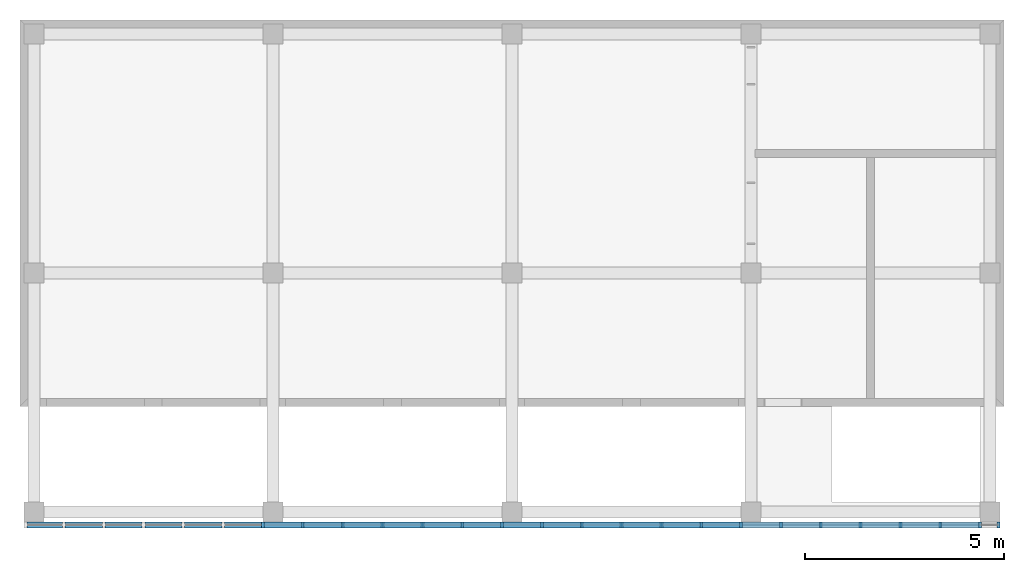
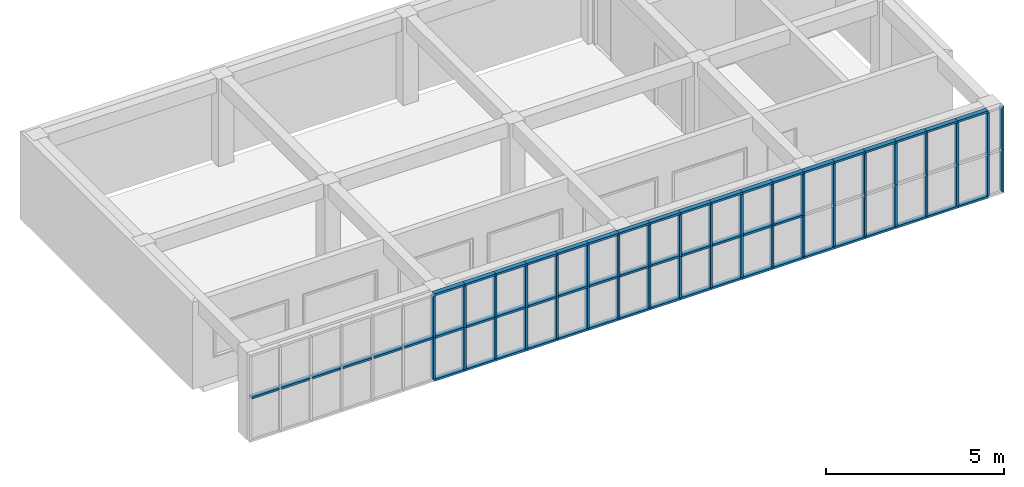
# One storey, part 3 of 4: 94 discrete accessories, 1 element without a shape of its own.
"""IFC2X3 building model written with IfcOpenShell, lengths in millimetres."""

from ifc_helpers import new_model, entity, si_unit, converted_unit, direction, frame, origin_with_axes, place, context, project, spatial, polyline, outline, extrude, source, transform, mapped, type_object, element, aggregate, save


model = new_model("IFC2X3")

# Units and contexts
model_context = context("Model", 3, precision=1e-05, world=origin_with_axes(), true_north=direction((6.123234e-17, 1.0)))
plan_context = context("Plan", 3, precision=1e-05, world=origin_with_axes(), true_north=direction((6.123234e-17, 1.0)))
ifc_project = project(units=[si_unit("LENGTHUNIT", "METRE", prefix="MILLI"), si_unit("AREAUNIT", "SQUARE_METRE"), si_unit("VOLUMEUNIT", "CUBIC_METRE"), converted_unit("PLANEANGLEUNIT", "DEGREE", entity("IfcPlaneAngleMeasure", 0.017453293), si_unit("PLANEANGLEUNIT", "RADIAN"), dimensions=[0, 0, 0, 0, 0, 0, 0]), si_unit("SOLIDANGLEUNIT", "STERADIAN"), si_unit("MASSUNIT", "GRAM"), si_unit("TIMEUNIT", "SECOND"), si_unit("THERMODYNAMICTEMPERATUREUNIT", "DEGREE_CELSIUS"), si_unit("LUMINOUSINTENSITYUNIT", "LUMEN")], contexts=[model_context, plan_context])

# Site, building, storey
site_placement = place(None, origin_with_axes())
site = spatial("IfcSite", under=ifc_project, at=site_placement, Name="\x8aO\x8d\\", CompositionType="ELEMENT")
building_placement = place(site_placement, origin_with_axes())
building = spatial("IfcBuilding", under=site, at=building_placement, Name="20101105_ArchCADMagic_002", CompositionType="ELEMENT")
storey_placement = place(building_placement, frame((0.0, 0.0, 3450.0), z_axis=(0.0, 0.0, 1.0), x_axis=(1.0, 0.0, 0.0)))
storey = spatial("IfcBuildingStorey", under=building, at=storey_placement, Name="1. 2\x8aK", CompositionType="ELEMENT", Elevation=3450.0)

# Curtain wall, discrete accessories
curtain_wall_placement = place(storey_placement, frame((-250.0, -325.0, 0.0), z_axis=(0.0, 0.0, 1.0), x_axis=(1.0, 0.0, 0.0)))
curtain_wall = element("IfcCurtainWall", 1, at=curtain_wall_placement, inside=storey, Name="CW5")
discrete_accessory_type = type_object("IfcDiscreteAccessoryType", Name="AC12_CW_Frame")
shared_shape_1 = source(origin_with_axes(), model_context, "Body", "SweptSolid", [
    extrude(outline(polyline([(0.0, 0.0), (150.0, 0.0), (150.0, -1000.0), (5.5511151e-14, -1000.0), (0.0, 0.0)])), origin_with_axes(), (0.0, 0.0, 1.0), 70.0),
])
discrete_accessory_1_placement = place(storey_placement, frame((5750.0, -250.0, 70.0), z_axis=(0.0, 0.0, -1.0), x_axis=(0.0, -1.0, 0.0)))
discrete_accessory_1 = element("IfcDiscreteAccessory", 2, at=discrete_accessory_1_placement, type_object=discrete_accessory_type, Name="\x8b«\x8aE-729", context=model_context, shape_type="MappedRepresentation", body=[
    mapped(shared_shape_1, transform((0.0, 0.0, 0.0), scale=1.0)),
])
discrete_accessory_2_placement = place(storey_placement, frame((6750.0, -250.0, 70.0), z_axis=(0.0, 0.0, -1.0), x_axis=(0.0, -1.0, 0.0)))
discrete_accessory_2 = element("IfcDiscreteAccessory", 3, at=discrete_accessory_2_placement, type_object=discrete_accessory_type, Name="\x8b«\x8aE-730", context=model_context, shape_type="MappedRepresentation", body=[
    mapped(shared_shape_1, transform((0.0, 0.0, 0.0), scale=1.0)),
])
discrete_accessory_3_placement = place(storey_placement, frame((7750.0, -250.0, 70.0), z_axis=(0.0, 0.0, -1.0), x_axis=(0.0, -1.0, 0.0)))
discrete_accessory_3 = element("IfcDiscreteAccessory", 4, at=discrete_accessory_3_placement, type_object=discrete_accessory_type, Name="\x8b«\x8aE-731", context=model_context, shape_type="MappedRepresentation", body=[
    mapped(shared_shape_1, transform((0.0, 0.0, 0.0), scale=1.0)),
])
discrete_accessory_4_placement = place(storey_placement, frame((8750.0, -250.0, 70.0), z_axis=(0.0, 0.0, -1.0), x_axis=(0.0, -1.0, 0.0)))
discrete_accessory_4 = element("IfcDiscreteAccessory", 5, at=discrete_accessory_4_placement, type_object=discrete_accessory_type, Name="\x8b«\x8aE-732", context=model_context, shape_type="MappedRepresentation", body=[
    mapped(shared_shape_1, transform((0.0, 0.0, 0.0), scale=1.0)),
])
discrete_accessory_5_placement = place(storey_placement, frame((9750.0, -250.0, 70.0), z_axis=(0.0, 0.0, -1.0), x_axis=(0.0, -1.0, 0.0)))
discrete_accessory_5 = element("IfcDiscreteAccessory", 6, at=discrete_accessory_5_placement, type_object=discrete_accessory_type, Name="\x8b«\x8aE-733", context=model_context, shape_type="MappedRepresentation", body=[
    mapped(shared_shape_1, transform((0.0, 0.0, 0.0), scale=1.0)),
])
discrete_accessory_6_placement = place(storey_placement, frame((10750.0, -250.0, 70.0), z_axis=(0.0, 0.0, -1.0), x_axis=(0.0, -1.0, 0.0)))
discrete_accessory_6 = element("IfcDiscreteAccessory", 7, at=discrete_accessory_6_placement, type_object=discrete_accessory_type, Name="\x8b«\x8aE-734", context=model_context, shape_type="MappedRepresentation", body=[
    mapped(shared_shape_1, transform((0.0, 0.0, 0.0), scale=1.0)),
])
discrete_accessory_7_placement = place(storey_placement, frame((11750.0, -250.0, 70.0), z_axis=(0.0, 0.0, -1.0), x_axis=(0.0, -1.0, 0.0)))
discrete_accessory_7 = element("IfcDiscreteAccessory", 8, at=discrete_accessory_7_placement, type_object=discrete_accessory_type, Name="\x8b«\x8aE-735", context=model_context, shape_type="MappedRepresentation", body=[
    mapped(shared_shape_1, transform((0.0, 0.0, 0.0), scale=1.0)),
])
discrete_accessory_8_placement = place(storey_placement, frame((12750.0, -250.0, 70.0), z_axis=(0.0, 0.0, -1.0), x_axis=(0.0, -1.0, 0.0)))
discrete_accessory_8 = element("IfcDiscreteAccessory", 9, at=discrete_accessory_8_placement, type_object=discrete_accessory_type, Name="\x8b«\x8aE-736", context=model_context, shape_type="MappedRepresentation", body=[
    mapped(shared_shape_1, transform((0.0, 0.0, 0.0), scale=1.0)),
])
discrete_accessory_9_placement = place(storey_placement, frame((13750.0, -250.0, 70.0), z_axis=(0.0, 0.0, -1.0), x_axis=(0.0, -1.0, 0.0)))
discrete_accessory_9 = element("IfcDiscreteAccessory", 10, at=discrete_accessory_9_placement, type_object=discrete_accessory_type, Name="\x8b«\x8aE-737", context=model_context, shape_type="MappedRepresentation", body=[
    mapped(shared_shape_1, transform((0.0, 0.0, 0.0), scale=1.0)),
])
discrete_accessory_10_placement = place(storey_placement, frame((14750.0, -250.0, 70.0), z_axis=(0.0, 0.0, -1.0), x_axis=(0.0, -1.0, 0.0)))
discrete_accessory_10 = element("IfcDiscreteAccessory", 11, at=discrete_accessory_10_placement, type_object=discrete_accessory_type, Name="\x8b«\x8aE-738", context=model_context, shape_type="MappedRepresentation", body=[
    mapped(shared_shape_1, transform((0.0, 0.0, 0.0), scale=1.0)),
])
discrete_accessory_11_placement = place(storey_placement, frame((15750.0, -250.0, 70.0), z_axis=(0.0, 0.0, -1.0), x_axis=(0.0, -1.0, 0.0)))
discrete_accessory_11 = element("IfcDiscreteAccessory", 12, at=discrete_accessory_11_placement, type_object=discrete_accessory_type, Name="\x8b«\x8aE-739", context=model_context, shape_type="MappedRepresentation", body=[
    mapped(shared_shape_1, transform((0.0, 0.0, 0.0), scale=1.0)),
])
discrete_accessory_12_placement = place(storey_placement, frame((16750.0, -250.0, 70.0), z_axis=(0.0, 0.0, -1.0), x_axis=(0.0, -1.0, 0.0)))
discrete_accessory_12 = element("IfcDiscreteAccessory", 13, at=discrete_accessory_12_placement, type_object=discrete_accessory_type, Name="\x8b«\x8aE-740", context=model_context, shape_type="MappedRepresentation", body=[
    mapped(shared_shape_1, transform((0.0, 0.0, 0.0), scale=1.0)),
])
discrete_accessory_13_placement = place(storey_placement, frame((17750.0, -250.0, 70.0), z_axis=(0.0, 0.0, -1.0), x_axis=(0.0, -1.0, 0.0)))
discrete_accessory_13 = element("IfcDiscreteAccessory", 14, at=discrete_accessory_13_placement, type_object=discrete_accessory_type, Name="\x8b«\x8aE-741", context=model_context, shape_type="MappedRepresentation", body=[
    mapped(shared_shape_1, transform((0.0, 0.0, 0.0), scale=1.0)),
])
discrete_accessory_14_placement = place(storey_placement, frame((18750.0, -250.0, 70.0), z_axis=(0.0, 0.0, -1.0), x_axis=(0.0, -1.0, 0.0)))
discrete_accessory_14 = element("IfcDiscreteAccessory", 15, at=discrete_accessory_14_placement, type_object=discrete_accessory_type, Name="\x8b«\x8aE-742", context=model_context, shape_type="MappedRepresentation", body=[
    mapped(shared_shape_1, transform((0.0, 0.0, 0.0), scale=1.0)),
])
discrete_accessory_15_placement = place(storey_placement, frame((19750.0, -250.0, 70.0), z_axis=(0.0, 0.0, -1.0), x_axis=(0.0, -1.0, 0.0)))
discrete_accessory_15 = element("IfcDiscreteAccessory", 16, at=discrete_accessory_15_placement, type_object=discrete_accessory_type, Name="\x8b«\x8aE-743", context=model_context, shape_type="MappedRepresentation", body=[
    mapped(shared_shape_1, transform((0.0, 0.0, 0.0), scale=1.0)),
])
discrete_accessory_16_placement = place(storey_placement, frame((20750.0, -250.0, 70.0), z_axis=(0.0, 0.0, -1.0), x_axis=(0.0, -1.0, 0.0)))
discrete_accessory_16 = element("IfcDiscreteAccessory", 17, at=discrete_accessory_16_placement, type_object=discrete_accessory_type, Name="\x8b«\x8aE-744", context=model_context, shape_type="MappedRepresentation", body=[
    mapped(shared_shape_1, transform((0.0, 0.0, 0.0), scale=1.0)),
])
discrete_accessory_17_placement = place(storey_placement, frame((21750.0, -250.0, 70.0), z_axis=(0.0, 0.0, -1.0), x_axis=(0.0, -1.0, 0.0)))
discrete_accessory_17 = element("IfcDiscreteAccessory", 18, at=discrete_accessory_17_placement, type_object=discrete_accessory_type, Name="\x8b«\x8aE-745", context=model_context, shape_type="MappedRepresentation", body=[
    mapped(shared_shape_1, transform((0.0, 0.0, 0.0), scale=1.0)),
])
discrete_accessory_18_placement = place(storey_placement, frame((22750.0, -250.0, 70.0), z_axis=(0.0, 0.0, -1.0), x_axis=(0.0, -1.0, 0.0)))
discrete_accessory_18 = element("IfcDiscreteAccessory", 19, at=discrete_accessory_18_placement, type_object=discrete_accessory_type, Name="\x8b«\x8aE-746", context=model_context, shape_type="MappedRepresentation", body=[
    mapped(shared_shape_1, transform((0.0, 0.0, 0.0), scale=1.0)),
])
discrete_accessory_19_placement = place(storey_placement, frame((5750.0, -250.0, 3000.0), z_axis=(0.0, 0.0, -1.0), x_axis=(0.0, -1.0, 0.0)))
discrete_accessory_19 = element("IfcDiscreteAccessory", 20, at=discrete_accessory_19_placement, type_object=discrete_accessory_type, Name="\x8b«\x8aE-819", context=model_context, shape_type="MappedRepresentation", body=[
    mapped(shared_shape_1, transform((0.0, 0.0, 0.0), scale=1.0)),
])
discrete_accessory_20_placement = place(storey_placement, frame((6750.0, -250.0, 3000.0), z_axis=(0.0, 0.0, -1.0), x_axis=(0.0, -1.0, 0.0)))
discrete_accessory_20 = element("IfcDiscreteAccessory", 21, at=discrete_accessory_20_placement, type_object=discrete_accessory_type, Name="\x8b«\x8aE-819", context=model_context, shape_type="MappedRepresentation", body=[
    mapped(shared_shape_1, transform((0.0, 0.0, 0.0), scale=1.0)),
])
discrete_accessory_21_placement = place(storey_placement, frame((7750.0, -250.0, 3000.0), z_axis=(0.0, 0.0, -1.0), x_axis=(0.0, -1.0, 0.0)))
discrete_accessory_21 = element("IfcDiscreteAccessory", 22, at=discrete_accessory_21_placement, type_object=discrete_accessory_type, Name="\x8b«\x8aE-819", context=model_context, shape_type="MappedRepresentation", body=[
    mapped(shared_shape_1, transform((0.0, 0.0, 0.0), scale=1.0)),
])
discrete_accessory_22_placement = place(storey_placement, frame((8750.0, -250.0, 3000.0), z_axis=(0.0, 0.0, -1.0), x_axis=(0.0, -1.0, 0.0)))
discrete_accessory_22 = element("IfcDiscreteAccessory", 23, at=discrete_accessory_22_placement, type_object=discrete_accessory_type, Name="\x8b«\x8aE-819", context=model_context, shape_type="MappedRepresentation", body=[
    mapped(shared_shape_1, transform((0.0, 0.0, 0.0), scale=1.0)),
])
discrete_accessory_23_placement = place(storey_placement, frame((9750.0, -250.0, 3000.0), z_axis=(0.0, 0.0, -1.0), x_axis=(0.0, -1.0, 0.0)))
discrete_accessory_23 = element("IfcDiscreteAccessory", 24, at=discrete_accessory_23_placement, type_object=discrete_accessory_type, Name="\x8b«\x8aE-819", context=model_context, shape_type="MappedRepresentation", body=[
    mapped(shared_shape_1, transform((0.0, 0.0, 0.0), scale=1.0)),
])
discrete_accessory_24_placement = place(storey_placement, frame((10750.0, -250.0, 3000.0), z_axis=(0.0, 0.0, -1.0), x_axis=(0.0, -1.0, 0.0)))
discrete_accessory_24 = element("IfcDiscreteAccessory", 25, at=discrete_accessory_24_placement, type_object=discrete_accessory_type, Name="\x8b«\x8aE-819", context=model_context, shape_type="MappedRepresentation", body=[
    mapped(shared_shape_1, transform((0.0, 0.0, 0.0), scale=1.0)),
])
discrete_accessory_25_placement = place(storey_placement, frame((11750.0, -250.0, 3000.0), z_axis=(0.0, 0.0, -1.0), x_axis=(0.0, -1.0, 0.0)))
discrete_accessory_25 = element("IfcDiscreteAccessory", 26, at=discrete_accessory_25_placement, type_object=discrete_accessory_type, Name="\x8b«\x8aE-819", context=model_context, shape_type="MappedRepresentation", body=[
    mapped(shared_shape_1, transform((0.0, 0.0, 0.0), scale=1.0)),
])
discrete_accessory_26_placement = place(storey_placement, frame((12750.0, -250.0, 3000.0), z_axis=(0.0, 0.0, -1.0), x_axis=(0.0, -1.0, 0.0)))
discrete_accessory_26 = element("IfcDiscreteAccessory", 27, at=discrete_accessory_26_placement, type_object=discrete_accessory_type, Name="\x8b«\x8aE-819", context=model_context, shape_type="MappedRepresentation", body=[
    mapped(shared_shape_1, transform((0.0, 0.0, 0.0), scale=1.0)),
])
discrete_accessory_27_placement = place(storey_placement, frame((13750.0, -250.0, 3000.0), z_axis=(0.0, 0.0, -1.0), x_axis=(0.0, -1.0, 0.0)))
discrete_accessory_27 = element("IfcDiscreteAccessory", 28, at=discrete_accessory_27_placement, type_object=discrete_accessory_type, Name="\x8b«\x8aE-819", context=model_context, shape_type="MappedRepresentation", body=[
    mapped(shared_shape_1, transform((0.0, 0.0, 0.0), scale=1.0)),
])
discrete_accessory_28_placement = place(storey_placement, frame((14750.0, -250.0, 3000.0), z_axis=(0.0, 0.0, -1.0), x_axis=(0.0, -1.0, 0.0)))
discrete_accessory_28 = element("IfcDiscreteAccessory", 29, at=discrete_accessory_28_placement, type_object=discrete_accessory_type, Name="\x8b«\x8aE-819", context=model_context, shape_type="MappedRepresentation", body=[
    mapped(shared_shape_1, transform((0.0, 0.0, 0.0), scale=1.0)),
])
discrete_accessory_29_placement = place(storey_placement, frame((15750.0, -250.0, 3000.0), z_axis=(0.0, 0.0, -1.0), x_axis=(0.0, -1.0, 0.0)))
discrete_accessory_29 = element("IfcDiscreteAccessory", 30, at=discrete_accessory_29_placement, type_object=discrete_accessory_type, Name="\x8b«\x8aE-819", context=model_context, shape_type="MappedRepresentation", body=[
    mapped(shared_shape_1, transform((0.0, 0.0, 0.0), scale=1.0)),
])
discrete_accessory_30_placement = place(storey_placement, frame((16750.0, -250.0, 3000.0), z_axis=(0.0, 0.0, -1.0), x_axis=(0.0, -1.0, 0.0)))
discrete_accessory_30 = element("IfcDiscreteAccessory", 31, at=discrete_accessory_30_placement, type_object=discrete_accessory_type, Name="\x8b«\x8aE-819", context=model_context, shape_type="MappedRepresentation", body=[
    mapped(shared_shape_1, transform((0.0, 0.0, 0.0), scale=1.0)),
])
discrete_accessory_31_placement = place(storey_placement, frame((17750.0, -250.0, 3000.0), z_axis=(0.0, 0.0, -1.0), x_axis=(0.0, -1.0, 0.0)))
discrete_accessory_31 = element("IfcDiscreteAccessory", 32, at=discrete_accessory_31_placement, type_object=discrete_accessory_type, Name="\x8b«\x8aE-819", context=model_context, shape_type="MappedRepresentation", body=[
    mapped(shared_shape_1, transform((0.0, 0.0, 0.0), scale=1.0)),
])
discrete_accessory_32_placement = place(storey_placement, frame((18750.0, -250.0, 3000.0), z_axis=(0.0, 0.0, -1.0), x_axis=(0.0, -1.0, 0.0)))
discrete_accessory_32 = element("IfcDiscreteAccessory", 33, at=discrete_accessory_32_placement, type_object=discrete_accessory_type, Name="\x8b«\x8aE-819", context=model_context, shape_type="MappedRepresentation", body=[
    mapped(shared_shape_1, transform((0.0, 0.0, 0.0), scale=1.0)),
])
discrete_accessory_33_placement = place(storey_placement, frame((19750.0, -250.0, 3000.0), z_axis=(0.0, 0.0, -1.0), x_axis=(0.0, -1.0, 0.0)))
discrete_accessory_33 = element("IfcDiscreteAccessory", 34, at=discrete_accessory_33_placement, type_object=discrete_accessory_type, Name="\x8b«\x8aE-819", context=model_context, shape_type="MappedRepresentation", body=[
    mapped(shared_shape_1, transform((0.0, 0.0, 0.0), scale=1.0)),
])
discrete_accessory_34_placement = place(storey_placement, frame((20750.0, -250.0, 3000.0), z_axis=(0.0, 0.0, -1.0), x_axis=(0.0, -1.0, 0.0)))
discrete_accessory_34 = element("IfcDiscreteAccessory", 35, at=discrete_accessory_34_placement, type_object=discrete_accessory_type, Name="\x8b«\x8aE-819", context=model_context, shape_type="MappedRepresentation", body=[
    mapped(shared_shape_1, transform((0.0, 0.0, 0.0), scale=1.0)),
])
discrete_accessory_35_placement = place(storey_placement, frame((21750.0, -250.0, 3000.0), z_axis=(0.0, 0.0, -1.0), x_axis=(0.0, -1.0, 0.0)))
discrete_accessory_35 = element("IfcDiscreteAccessory", 36, at=discrete_accessory_35_placement, type_object=discrete_accessory_type, Name="\x8b«\x8aE-819", context=model_context, shape_type="MappedRepresentation", body=[
    mapped(shared_shape_1, transform((0.0, 0.0, 0.0), scale=1.0)),
])
discrete_accessory_36_placement = place(storey_placement, frame((22750.0, -250.0, 3000.0), z_axis=(0.0, 0.0, -1.0), x_axis=(0.0, -1.0, 0.0)))
discrete_accessory_36 = element("IfcDiscreteAccessory", 37, at=discrete_accessory_36_placement, type_object=discrete_accessory_type, Name="\x8b«\x8aE-819", context=model_context, shape_type="MappedRepresentation", body=[
    mapped(shared_shape_1, transform((0.0, 0.0, 0.0), scale=1.0)),
])
shared_shape_2 = source(origin_with_axes(), model_context, "Body", "SweptSolid", [
    extrude(outline(polyline([(0.0, 0.0), (150.0, 0.0), (150.0, -1430.0), (0.0, -1430.0), (0.0, 0.0)])), origin_with_axes(), (0.0, 0.0, 1.0), 70.0),
])
discrete_accessory_37_placement = place(storey_placement, frame((5715.0, -250.0, 70.0), z_axis=(1.0, 0.0, 0.0), x_axis=(0.0, -1.0, 0.0)))
discrete_accessory_37 = element("IfcDiscreteAccessory", 38, at=discrete_accessory_37_placement, type_object=discrete_accessory_type, Name="\x83}\x83\x8a\x83I\x83\x93-644", context=model_context, shape_type="MappedRepresentation", body=[
    mapped(shared_shape_2, transform((0.0, 0.0, 0.0), scale=1.0)),
])
discrete_accessory_38_placement = place(storey_placement, frame((6715.0, -250.0, 70.0), z_axis=(1.0, 0.0, 0.0), x_axis=(0.0, -1.0, 0.0)))
discrete_accessory_38 = element("IfcDiscreteAccessory", 39, at=discrete_accessory_38_placement, type_object=discrete_accessory_type, Name="\x83}\x83\x8a\x83I\x83\x93-645", context=model_context, shape_type="MappedRepresentation", body=[
    mapped(shared_shape_2, transform((0.0, 0.0, 0.0), scale=1.0)),
])
discrete_accessory_39_placement = place(storey_placement, frame((7715.0, -250.0, 70.0), z_axis=(1.0, 0.0, 0.0), x_axis=(0.0, -1.0, 0.0)))
discrete_accessory_39 = element("IfcDiscreteAccessory", 40, at=discrete_accessory_39_placement, type_object=discrete_accessory_type, Name="\x83}\x83\x8a\x83I\x83\x93-646", context=model_context, shape_type="MappedRepresentation", body=[
    mapped(shared_shape_2, transform((0.0, 0.0, 0.0), scale=1.0)),
])
discrete_accessory_40_placement = place(storey_placement, frame((8715.0, -250.0, 70.0), z_axis=(1.0, 0.0, 0.0), x_axis=(0.0, -1.0, 0.0)))
discrete_accessory_40 = element("IfcDiscreteAccessory", 41, at=discrete_accessory_40_placement, type_object=discrete_accessory_type, Name="\x83}\x83\x8a\x83I\x83\x93-647", context=model_context, shape_type="MappedRepresentation", body=[
    mapped(shared_shape_2, transform((0.0, 0.0, 0.0), scale=1.0)),
])
discrete_accessory_41_placement = place(storey_placement, frame((9715.0, -250.0, 70.0), z_axis=(1.0, 0.0, 0.0), x_axis=(0.0, -1.0, 0.0)))
discrete_accessory_41 = element("IfcDiscreteAccessory", 42, at=discrete_accessory_41_placement, type_object=discrete_accessory_type, Name="\x83}\x83\x8a\x83I\x83\x93-648", context=model_context, shape_type="MappedRepresentation", body=[
    mapped(shared_shape_2, transform((0.0, 0.0, 0.0), scale=1.0)),
])
discrete_accessory_42_placement = place(storey_placement, frame((10715.0, -250.0, 70.0), z_axis=(1.0, 0.0, 0.0), x_axis=(0.0, -1.0, 0.0)))
discrete_accessory_42 = element("IfcDiscreteAccessory", 43, at=discrete_accessory_42_placement, type_object=discrete_accessory_type, Name="\x83}\x83\x8a\x83I\x83\x93-649", context=model_context, shape_type="MappedRepresentation", body=[
    mapped(shared_shape_2, transform((0.0, 0.0, 0.0), scale=1.0)),
])
discrete_accessory_43_placement = place(storey_placement, frame((11715.0, -250.0, 70.0), z_axis=(1.0, 0.0, 0.0), x_axis=(0.0, -1.0, 0.0)))
discrete_accessory_43 = element("IfcDiscreteAccessory", 44, at=discrete_accessory_43_placement, type_object=discrete_accessory_type, Name="\x83}\x83\x8a\x83I\x83\x93-650", context=model_context, shape_type="MappedRepresentation", body=[
    mapped(shared_shape_2, transform((0.0, 0.0, 0.0), scale=1.0)),
])
discrete_accessory_44_placement = place(storey_placement, frame((12715.0, -250.0, 70.0), z_axis=(1.0, 0.0, 0.0), x_axis=(0.0, -1.0, 0.0)))
discrete_accessory_44 = element("IfcDiscreteAccessory", 45, at=discrete_accessory_44_placement, type_object=discrete_accessory_type, Name="\x83}\x83\x8a\x83I\x83\x93-651", context=model_context, shape_type="MappedRepresentation", body=[
    mapped(shared_shape_2, transform((0.0, 0.0, 0.0), scale=1.0)),
])
discrete_accessory_45_placement = place(storey_placement, frame((13715.0, -250.0, 70.0), z_axis=(1.0, 0.0, 0.0), x_axis=(0.0, -1.0, 0.0)))
discrete_accessory_45 = element("IfcDiscreteAccessory", 46, at=discrete_accessory_45_placement, type_object=discrete_accessory_type, Name="\x83}\x83\x8a\x83I\x83\x93-652", context=model_context, shape_type="MappedRepresentation", body=[
    mapped(shared_shape_2, transform((0.0, 0.0, 0.0), scale=1.0)),
])
discrete_accessory_46_placement = place(storey_placement, frame((14715.0, -250.0, 70.0), z_axis=(1.0, 0.0, 0.0), x_axis=(0.0, -1.0, 0.0)))
discrete_accessory_46 = element("IfcDiscreteAccessory", 47, at=discrete_accessory_46_placement, type_object=discrete_accessory_type, Name="\x83}\x83\x8a\x83I\x83\x93-653", context=model_context, shape_type="MappedRepresentation", body=[
    mapped(shared_shape_2, transform((0.0, 0.0, 0.0), scale=1.0)),
])
discrete_accessory_47_placement = place(storey_placement, frame((15715.0, -250.0, 70.0), z_axis=(1.0, 0.0, 0.0), x_axis=(0.0, -1.0, 0.0)))
discrete_accessory_47 = element("IfcDiscreteAccessory", 48, at=discrete_accessory_47_placement, type_object=discrete_accessory_type, Name="\x83}\x83\x8a\x83I\x83\x93-654", context=model_context, shape_type="MappedRepresentation", body=[
    mapped(shared_shape_2, transform((0.0, 0.0, 0.0), scale=1.0)),
])
discrete_accessory_48_placement = place(storey_placement, frame((16715.0, -250.0, 70.0), z_axis=(1.0, 0.0, 0.0), x_axis=(0.0, -1.0, 0.0)))
discrete_accessory_48 = element("IfcDiscreteAccessory", 49, at=discrete_accessory_48_placement, type_object=discrete_accessory_type, Name="\x83}\x83\x8a\x83I\x83\x93-655", context=model_context, shape_type="MappedRepresentation", body=[
    mapped(shared_shape_2, transform((0.0, 0.0, 0.0), scale=1.0)),
])
discrete_accessory_49_placement = place(storey_placement, frame((17715.0, -250.0, 70.0), z_axis=(1.0, 0.0, 0.0), x_axis=(0.0, -1.0, 0.0)))
discrete_accessory_49 = element("IfcDiscreteAccessory", 50, at=discrete_accessory_49_placement, type_object=discrete_accessory_type, Name="\x83}\x83\x8a\x83I\x83\x93-656", context=model_context, shape_type="MappedRepresentation", body=[
    mapped(shared_shape_2, transform((0.0, 0.0, 0.0), scale=1.0)),
])
discrete_accessory_50_placement = place(storey_placement, frame((18715.0, -250.0, 70.0), z_axis=(1.0, 0.0, 0.0), x_axis=(0.0, -1.0, 0.0)))
discrete_accessory_50 = element("IfcDiscreteAccessory", 51, at=discrete_accessory_50_placement, type_object=discrete_accessory_type, Name="\x83}\x83\x8a\x83I\x83\x93-657", context=model_context, shape_type="MappedRepresentation", body=[
    mapped(shared_shape_2, transform((0.0, 0.0, 0.0), scale=1.0)),
])
discrete_accessory_51_placement = place(storey_placement, frame((19715.0, -250.0, 70.0), z_axis=(1.0, 0.0, 0.0), x_axis=(0.0, -1.0, 0.0)))
discrete_accessory_51 = element("IfcDiscreteAccessory", 52, at=discrete_accessory_51_placement, type_object=discrete_accessory_type, Name="\x83}\x83\x8a\x83I\x83\x93-658", context=model_context, shape_type="MappedRepresentation", body=[
    mapped(shared_shape_2, transform((0.0, 0.0, 0.0), scale=1.0)),
])
discrete_accessory_52_placement = place(storey_placement, frame((20715.0, -250.0, 70.0), z_axis=(1.0, 0.0, 0.0), x_axis=(0.0, -1.0, 0.0)))
discrete_accessory_52 = element("IfcDiscreteAccessory", 53, at=discrete_accessory_52_placement, type_object=discrete_accessory_type, Name="\x83}\x83\x8a\x83I\x83\x93-659", context=model_context, shape_type="MappedRepresentation", body=[
    mapped(shared_shape_2, transform((0.0, 0.0, 0.0), scale=1.0)),
])
discrete_accessory_53_placement = place(storey_placement, frame((21715.0, -250.0, 70.0), z_axis=(1.0, 0.0, 0.0), x_axis=(0.0, -1.0, 0.0)))
discrete_accessory_53 = element("IfcDiscreteAccessory", 54, at=discrete_accessory_53_placement, type_object=discrete_accessory_type, Name="\x83}\x83\x8a\x83I\x83\x93-660", context=model_context, shape_type="MappedRepresentation", body=[
    mapped(shared_shape_2, transform((0.0, 0.0, 0.0), scale=1.0)),
])
discrete_accessory_54_placement = place(storey_placement, frame((22715.0, -250.0, 70.0), z_axis=(1.0, 0.0, 0.0), x_axis=(0.0, -1.0, 0.0)))
discrete_accessory_54 = element("IfcDiscreteAccessory", 55, at=discrete_accessory_54_placement, type_object=discrete_accessory_type, Name="\x83}\x83\x8a\x83I\x83\x93-661", context=model_context, shape_type="MappedRepresentation", body=[
    mapped(shared_shape_2, transform((0.0, 0.0, 0.0), scale=1.0)),
])
discrete_accessory_55_placement = place(storey_placement, frame((23715.0, -250.0, 70.0), z_axis=(1.0, 0.0, 0.0), x_axis=(0.0, -1.0, 0.0)))
discrete_accessory_55 = element("IfcDiscreteAccessory", 56, at=discrete_accessory_55_placement, type_object=discrete_accessory_type, Name="\x83}\x83\x8a\x83I\x83\x93-662", context=model_context, shape_type="MappedRepresentation", body=[
    mapped(shared_shape_2, transform((0.0, 0.0, 0.0), scale=1.0)),
])
discrete_accessory_56_placement = place(storey_placement, frame((5715.0, -250.0, 1500.0), z_axis=(1.0, 0.0, 0.0), x_axis=(0.0, -1.0, 0.0)))
discrete_accessory_56 = element("IfcDiscreteAccessory", 57, at=discrete_accessory_56_placement, type_object=discrete_accessory_type, Name="\x83}\x83\x8a\x83I\x83\x93-668", context=model_context, shape_type="MappedRepresentation", body=[
    mapped(shared_shape_2, transform((0.0, 0.0, 0.0), scale=1.0)),
])
discrete_accessory_57_placement = place(storey_placement, frame((6715.0, -250.0, 1500.0), z_axis=(1.0, 0.0, 0.0), x_axis=(0.0, -1.0, 0.0)))
discrete_accessory_57 = element("IfcDiscreteAccessory", 58, at=discrete_accessory_57_placement, type_object=discrete_accessory_type, Name="\x83}\x83\x8a\x83I\x83\x93-669", context=model_context, shape_type="MappedRepresentation", body=[
    mapped(shared_shape_2, transform((0.0, 0.0, 0.0), scale=1.0)),
])
discrete_accessory_58_placement = place(storey_placement, frame((7715.0, -250.0, 1500.0), z_axis=(1.0, 0.0, 0.0), x_axis=(0.0, -1.0, 0.0)))
discrete_accessory_58 = element("IfcDiscreteAccessory", 59, at=discrete_accessory_58_placement, type_object=discrete_accessory_type, Name="\x83}\x83\x8a\x83I\x83\x93-670", context=model_context, shape_type="MappedRepresentation", body=[
    mapped(shared_shape_2, transform((0.0, 0.0, 0.0), scale=1.0)),
])
discrete_accessory_59_placement = place(storey_placement, frame((8715.0, -250.0, 1500.0), z_axis=(1.0, 0.0, 0.0), x_axis=(0.0, -1.0, 0.0)))
discrete_accessory_59 = element("IfcDiscreteAccessory", 60, at=discrete_accessory_59_placement, type_object=discrete_accessory_type, Name="\x83}\x83\x8a\x83I\x83\x93-671", context=model_context, shape_type="MappedRepresentation", body=[
    mapped(shared_shape_2, transform((0.0, 0.0, 0.0), scale=1.0)),
])
discrete_accessory_60_placement = place(storey_placement, frame((9715.0, -250.0, 1500.0), z_axis=(1.0, 0.0, 0.0), x_axis=(0.0, -1.0, 0.0)))
discrete_accessory_60 = element("IfcDiscreteAccessory", 61, at=discrete_accessory_60_placement, type_object=discrete_accessory_type, Name="\x83}\x83\x8a\x83I\x83\x93-672", context=model_context, shape_type="MappedRepresentation", body=[
    mapped(shared_shape_2, transform((0.0, 0.0, 0.0), scale=1.0)),
])
discrete_accessory_61_placement = place(storey_placement, frame((10715.0, -250.0, 1500.0), z_axis=(1.0, 0.0, 0.0), x_axis=(0.0, -1.0, 0.0)))
discrete_accessory_61 = element("IfcDiscreteAccessory", 62, at=discrete_accessory_61_placement, type_object=discrete_accessory_type, Name="\x83}\x83\x8a\x83I\x83\x93-673", context=model_context, shape_type="MappedRepresentation", body=[
    mapped(shared_shape_2, transform((0.0, 0.0, 0.0), scale=1.0)),
])
discrete_accessory_62_placement = place(storey_placement, frame((11715.0, -250.0, 1500.0), z_axis=(1.0, 0.0, 0.0), x_axis=(0.0, -1.0, 0.0)))
discrete_accessory_62 = element("IfcDiscreteAccessory", 63, at=discrete_accessory_62_placement, type_object=discrete_accessory_type, Name="\x83}\x83\x8a\x83I\x83\x93-674", context=model_context, shape_type="MappedRepresentation", body=[
    mapped(shared_shape_2, transform((0.0, 0.0, 0.0), scale=1.0)),
])
discrete_accessory_63_placement = place(storey_placement, frame((12715.0, -250.0, 1500.0), z_axis=(1.0, 0.0, 0.0), x_axis=(0.0, -1.0, 0.0)))
discrete_accessory_63 = element("IfcDiscreteAccessory", 64, at=discrete_accessory_63_placement, type_object=discrete_accessory_type, Name="\x83}\x83\x8a\x83I\x83\x93-675", context=model_context, shape_type="MappedRepresentation", body=[
    mapped(shared_shape_2, transform((0.0, 0.0, 0.0), scale=1.0)),
])
discrete_accessory_64_placement = place(storey_placement, frame((13715.0, -250.0, 1500.0), z_axis=(1.0, 0.0, 0.0), x_axis=(0.0, -1.0, 0.0)))
discrete_accessory_64 = element("IfcDiscreteAccessory", 65, at=discrete_accessory_64_placement, type_object=discrete_accessory_type, Name="\x83}\x83\x8a\x83I\x83\x93-676", context=model_context, shape_type="MappedRepresentation", body=[
    mapped(shared_shape_2, transform((0.0, 0.0, 0.0), scale=1.0)),
])
discrete_accessory_65_placement = place(storey_placement, frame((14715.0, -250.0, 1500.0), z_axis=(1.0, 0.0, 0.0), x_axis=(0.0, -1.0, 0.0)))
discrete_accessory_65 = element("IfcDiscreteAccessory", 66, at=discrete_accessory_65_placement, type_object=discrete_accessory_type, Name="\x83}\x83\x8a\x83I\x83\x93-677", context=model_context, shape_type="MappedRepresentation", body=[
    mapped(shared_shape_2, transform((0.0, 0.0, 0.0), scale=1.0)),
])
discrete_accessory_66_placement = place(storey_placement, frame((15715.0, -250.0, 1500.0), z_axis=(1.0, 0.0, 0.0), x_axis=(0.0, -1.0, 0.0)))
discrete_accessory_66 = element("IfcDiscreteAccessory", 67, at=discrete_accessory_66_placement, type_object=discrete_accessory_type, Name="\x83}\x83\x8a\x83I\x83\x93-678", context=model_context, shape_type="MappedRepresentation", body=[
    mapped(shared_shape_2, transform((0.0, 0.0, 0.0), scale=1.0)),
])
discrete_accessory_67_placement = place(storey_placement, frame((16715.0, -250.0, 1500.0), z_axis=(1.0, 0.0, 0.0), x_axis=(0.0, -1.0, 0.0)))
discrete_accessory_67 = element("IfcDiscreteAccessory", 68, at=discrete_accessory_67_placement, type_object=discrete_accessory_type, Name="\x83}\x83\x8a\x83I\x83\x93-679", context=model_context, shape_type="MappedRepresentation", body=[
    mapped(shared_shape_2, transform((0.0, 0.0, 0.0), scale=1.0)),
])
discrete_accessory_68_placement = place(storey_placement, frame((17715.0, -250.0, 1500.0), z_axis=(1.0, 0.0, 0.0), x_axis=(0.0, -1.0, 0.0)))
discrete_accessory_68 = element("IfcDiscreteAccessory", 69, at=discrete_accessory_68_placement, type_object=discrete_accessory_type, Name="\x83}\x83\x8a\x83I\x83\x93-680", context=model_context, shape_type="MappedRepresentation", body=[
    mapped(shared_shape_2, transform((0.0, 0.0, 0.0), scale=1.0)),
])
discrete_accessory_69_placement = place(storey_placement, frame((18715.0, -250.0, 1500.0), z_axis=(1.0, 0.0, 0.0), x_axis=(0.0, -1.0, 0.0)))
discrete_accessory_69 = element("IfcDiscreteAccessory", 70, at=discrete_accessory_69_placement, type_object=discrete_accessory_type, Name="\x83}\x83\x8a\x83I\x83\x93-681", context=model_context, shape_type="MappedRepresentation", body=[
    mapped(shared_shape_2, transform((0.0, 0.0, 0.0), scale=1.0)),
])
discrete_accessory_70_placement = place(storey_placement, frame((19715.0, -250.0, 1500.0), z_axis=(1.0, 0.0, 0.0), x_axis=(0.0, -1.0, 0.0)))
discrete_accessory_70 = element("IfcDiscreteAccessory", 71, at=discrete_accessory_70_placement, type_object=discrete_accessory_type, Name="\x83}\x83\x8a\x83I\x83\x93-682", context=model_context, shape_type="MappedRepresentation", body=[
    mapped(shared_shape_2, transform((0.0, 0.0, 0.0), scale=1.0)),
])
discrete_accessory_71_placement = place(storey_placement, frame((20715.0, -250.0, 1500.0), z_axis=(1.0, 0.0, 0.0), x_axis=(0.0, -1.0, 0.0)))
discrete_accessory_71 = element("IfcDiscreteAccessory", 72, at=discrete_accessory_71_placement, type_object=discrete_accessory_type, Name="\x83}\x83\x8a\x83I\x83\x93-683", context=model_context, shape_type="MappedRepresentation", body=[
    mapped(shared_shape_2, transform((0.0, 0.0, 0.0), scale=1.0)),
])
discrete_accessory_72_placement = place(storey_placement, frame((21715.0, -250.0, 1500.0), z_axis=(1.0, 0.0, 0.0), x_axis=(0.0, -1.0, 0.0)))
discrete_accessory_72 = element("IfcDiscreteAccessory", 73, at=discrete_accessory_72_placement, type_object=discrete_accessory_type, Name="\x83}\x83\x8a\x83I\x83\x93-684", context=model_context, shape_type="MappedRepresentation", body=[
    mapped(shared_shape_2, transform((0.0, 0.0, 0.0), scale=1.0)),
])
discrete_accessory_73_placement = place(storey_placement, frame((22715.0, -250.0, 1500.0), z_axis=(1.0, 0.0, 0.0), x_axis=(0.0, -1.0, 0.0)))
discrete_accessory_73 = element("IfcDiscreteAccessory", 74, at=discrete_accessory_73_placement, type_object=discrete_accessory_type, Name="\x83}\x83\x8a\x83I\x83\x93-685", context=model_context, shape_type="MappedRepresentation", body=[
    mapped(shared_shape_2, transform((0.0, 0.0, 0.0), scale=1.0)),
])
discrete_accessory_74_placement = place(storey_placement, frame((23715.0, -250.0, 1500.0), z_axis=(1.0, 0.0, 0.0), x_axis=(0.0, -1.0, 0.0)))
discrete_accessory_74 = element("IfcDiscreteAccessory", 75, at=discrete_accessory_74_placement, type_object=discrete_accessory_type, Name="\x83}\x83\x8a\x83I\x83\x93-686", context=model_context, shape_type="MappedRepresentation", body=[
    mapped(shared_shape_2, transform((0.0, 0.0, 0.0), scale=1.0)),
])
shared_shape_3 = source(origin_with_axes(), model_context, "Body", "SweptSolid", [
    extrude(outline(polyline([(0.0, 0.0), (150.0, 0.0), (150.0, -895.0), (5.5511151e-14, -895.0), (0.0, 0.0)])), origin_with_axes(), (0.0, 0.0, 1.0), 70.0),
])
discrete_accessory_75_placement = place(storey_placement, frame((-180.0, -250.0, 1535.0), z_axis=(0.0, 0.0, -1.0), x_axis=(0.0, -1.0, 0.0)))
discrete_accessory_75 = element("IfcDiscreteAccessory", 76, at=discrete_accessory_75_placement, type_object=discrete_accessory_type, Name="\x83g\x83\x89\x83\x93\x83U\x83\x80-439", context=model_context, shape_type="MappedRepresentation", body=[
    mapped(shared_shape_3, transform((0.0, 0.0, 0.0), scale=1.0)),
])
shared_shape_4 = source(origin_with_axes(), model_context, "Body", "SweptSolid", [
    extrude(outline(polyline([(0.0, 0.0), (150.0, 0.0), (150.0, -930.0), (5.5511151e-14, -930.0), (0.0, 0.0)])), origin_with_axes(), (0.0, 0.0, 1.0), 70.0),
])
discrete_accessory_76_placement = place(storey_placement, frame((785.0, -250.0, 1535.0), z_axis=(0.0, 0.0, -1.0), x_axis=(0.0, -1.0, 0.0)))
discrete_accessory_76 = element("IfcDiscreteAccessory", 77, at=discrete_accessory_76_placement, type_object=discrete_accessory_type, Name="\x83g\x83\x89\x83\x93\x83U\x83\x80-440", context=model_context, shape_type="MappedRepresentation", body=[
    mapped(shared_shape_4, transform((0.0, 0.0, 0.0), scale=1.0)),
])
discrete_accessory_77_placement = place(storey_placement, frame((1785.0, -250.0, 1535.0), z_axis=(0.0, 0.0, -1.0), x_axis=(0.0, -1.0, 0.0)))
discrete_accessory_77 = element("IfcDiscreteAccessory", 78, at=discrete_accessory_77_placement, type_object=discrete_accessory_type, Name="\x83g\x83\x89\x83\x93\x83U\x83\x80-441", context=model_context, shape_type="MappedRepresentation", body=[
    mapped(shared_shape_4, transform((0.0, 0.0, 0.0), scale=1.0)),
])
discrete_accessory_78_placement = place(storey_placement, frame((2785.0, -250.0, 1535.0), z_axis=(0.0, 0.0, -1.0), x_axis=(0.0, -1.0, 0.0)))
discrete_accessory_78 = element("IfcDiscreteAccessory", 79, at=discrete_accessory_78_placement, type_object=discrete_accessory_type, Name="\x83g\x83\x89\x83\x93\x83U\x83\x80-442", context=model_context, shape_type="MappedRepresentation", body=[
    mapped(shared_shape_4, transform((0.0, 0.0, 0.0), scale=1.0)),
])
discrete_accessory_79_placement = place(storey_placement, frame((3785.0, -250.0, 1535.0), z_axis=(0.0, 0.0, -1.0), x_axis=(0.0, -1.0, 0.0)))
discrete_accessory_79 = element("IfcDiscreteAccessory", 80, at=discrete_accessory_79_placement, type_object=discrete_accessory_type, Name="\x83g\x83\x89\x83\x93\x83U\x83\x80-443", context=model_context, shape_type="MappedRepresentation", body=[
    mapped(shared_shape_4, transform((0.0, 0.0, 0.0), scale=1.0)),
])
discrete_accessory_80_placement = place(storey_placement, frame((4785.0, -250.0, 1535.0), z_axis=(0.0, 0.0, -1.0), x_axis=(0.0, -1.0, 0.0)))
discrete_accessory_80 = element("IfcDiscreteAccessory", 81, at=discrete_accessory_80_placement, type_object=discrete_accessory_type, Name="\x83g\x83\x89\x83\x93\x83U\x83\x80-444", context=model_context, shape_type="MappedRepresentation", body=[
    mapped(shared_shape_4, transform((0.0, 0.0, 0.0), scale=1.0)),
])
discrete_accessory_81_placement = place(storey_placement, frame((5785.0, -250.0, 1535.0), z_axis=(0.0, 0.0, -1.0), x_axis=(0.0, -1.0, 0.0)))
discrete_accessory_81 = element("IfcDiscreteAccessory", 82, at=discrete_accessory_81_placement, type_object=discrete_accessory_type, Name="\x83g\x83\x89\x83\x93\x83U\x83\x80-445", context=model_context, shape_type="MappedRepresentation", body=[
    mapped(shared_shape_4, transform((0.0, 0.0, 0.0), scale=1.0)),
])
discrete_accessory_82_placement = place(storey_placement, frame((6785.0, -250.0, 1535.0), z_axis=(0.0, 0.0, -1.0), x_axis=(0.0, -1.0, 0.0)))
discrete_accessory_82 = element("IfcDiscreteAccessory", 83, at=discrete_accessory_82_placement, type_object=discrete_accessory_type, Name="\x83g\x83\x89\x83\x93\x83U\x83\x80-446", context=model_context, shape_type="MappedRepresentation", body=[
    mapped(shared_shape_4, transform((0.0, 0.0, 0.0), scale=1.0)),
])
discrete_accessory_83_placement = place(storey_placement, frame((7785.0, -250.0, 1535.0), z_axis=(0.0, 0.0, -1.0), x_axis=(0.0, -1.0, 0.0)))
discrete_accessory_83 = element("IfcDiscreteAccessory", 84, at=discrete_accessory_83_placement, type_object=discrete_accessory_type, Name="\x83g\x83\x89\x83\x93\x83U\x83\x80-447", context=model_context, shape_type="MappedRepresentation", body=[
    mapped(shared_shape_4, transform((0.0, 0.0, 0.0), scale=1.0)),
])
discrete_accessory_84_placement = place(storey_placement, frame((8785.0, -250.0, 1535.0), z_axis=(0.0, 0.0, -1.0), x_axis=(0.0, -1.0, 0.0)))
discrete_accessory_84 = element("IfcDiscreteAccessory", 85, at=discrete_accessory_84_placement, type_object=discrete_accessory_type, Name="\x83g\x83\x89\x83\x93\x83U\x83\x80-448", context=model_context, shape_type="MappedRepresentation", body=[
    mapped(shared_shape_4, transform((0.0, 0.0, 0.0), scale=1.0)),
])
discrete_accessory_85_placement = place(storey_placement, frame((9785.0, -250.0, 1535.0), z_axis=(0.0, 0.0, -1.0), x_axis=(0.0, -1.0, 0.0)))
discrete_accessory_85 = element("IfcDiscreteAccessory", 86, at=discrete_accessory_85_placement, type_object=discrete_accessory_type, Name="\x83g\x83\x89\x83\x93\x83U\x83\x80-449", context=model_context, shape_type="MappedRepresentation", body=[
    mapped(shared_shape_4, transform((0.0, 0.0, 0.0), scale=1.0)),
])
discrete_accessory_86_placement = place(storey_placement, frame((10785.0, -250.0, 1535.0), z_axis=(0.0, 0.0, -1.0), x_axis=(0.0, -1.0, 0.0)))
discrete_accessory_86 = element("IfcDiscreteAccessory", 87, at=discrete_accessory_86_placement, type_object=discrete_accessory_type, Name="\x83g\x83\x89\x83\x93\x83U\x83\x80-450", context=model_context, shape_type="MappedRepresentation", body=[
    mapped(shared_shape_4, transform((0.0, 0.0, 0.0), scale=1.0)),
])
discrete_accessory_87_placement = place(storey_placement, frame((11785.0, -250.0, 1535.0), z_axis=(0.0, 0.0, -1.0), x_axis=(0.0, -1.0, 0.0)))
discrete_accessory_87 = element("IfcDiscreteAccessory", 88, at=discrete_accessory_87_placement, type_object=discrete_accessory_type, Name="\x83g\x83\x89\x83\x93\x83U\x83\x80-451", context=model_context, shape_type="MappedRepresentation", body=[
    mapped(shared_shape_4, transform((0.0, 0.0, 0.0), scale=1.0)),
])
discrete_accessory_88_placement = place(storey_placement, frame((12785.0, -250.0, 1535.0), z_axis=(0.0, 0.0, -1.0), x_axis=(0.0, -1.0, 0.0)))
discrete_accessory_88 = element("IfcDiscreteAccessory", 89, at=discrete_accessory_88_placement, type_object=discrete_accessory_type, Name="\x83g\x83\x89\x83\x93\x83U\x83\x80-452", context=model_context, shape_type="MappedRepresentation", body=[
    mapped(shared_shape_4, transform((0.0, 0.0, 0.0), scale=1.0)),
])
discrete_accessory_89_placement = place(storey_placement, frame((13785.0, -250.0, 1535.0), z_axis=(0.0, 0.0, -1.0), x_axis=(0.0, -1.0, 0.0)))
discrete_accessory_89 = element("IfcDiscreteAccessory", 90, at=discrete_accessory_89_placement, type_object=discrete_accessory_type, Name="\x83g\x83\x89\x83\x93\x83U\x83\x80-453", context=model_context, shape_type="MappedRepresentation", body=[
    mapped(shared_shape_4, transform((0.0, 0.0, 0.0), scale=1.0)),
])
discrete_accessory_90_placement = place(storey_placement, frame((14785.0, -250.0, 1535.0), z_axis=(0.0, 0.0, -1.0), x_axis=(0.0, -1.0, 0.0)))
discrete_accessory_90 = element("IfcDiscreteAccessory", 91, at=discrete_accessory_90_placement, type_object=discrete_accessory_type, Name="\x83g\x83\x89\x83\x93\x83U\x83\x80-454", context=model_context, shape_type="MappedRepresentation", body=[
    mapped(shared_shape_4, transform((0.0, 0.0, 0.0), scale=1.0)),
])
discrete_accessory_91_placement = place(storey_placement, frame((15785.0, -250.0, 1535.0), z_axis=(0.0, 0.0, -1.0), x_axis=(0.0, -1.0, 0.0)))
discrete_accessory_91 = element("IfcDiscreteAccessory", 92, at=discrete_accessory_91_placement, type_object=discrete_accessory_type, Name="\x83g\x83\x89\x83\x93\x83U\x83\x80-455", context=model_context, shape_type="MappedRepresentation", body=[
    mapped(shared_shape_4, transform((0.0, 0.0, 0.0), scale=1.0)),
])
discrete_accessory_92_placement = place(storey_placement, frame((16785.0, -250.0, 1535.0), z_axis=(0.0, 0.0, -1.0), x_axis=(0.0, -1.0, 0.0)))
discrete_accessory_92 = element("IfcDiscreteAccessory", 93, at=discrete_accessory_92_placement, type_object=discrete_accessory_type, Name="\x83g\x83\x89\x83\x93\x83U\x83\x80-456", context=model_context, shape_type="MappedRepresentation", body=[
    mapped(shared_shape_4, transform((0.0, 0.0, 0.0), scale=1.0)),
])
shared_shape_5 = source(origin_with_axes(), model_context, "Body", "SweptSolid", [
    extrude(outline(polyline([(0.0, 0.0), (70.0, 0.0), (70.0, -1500.0), (0.0, -1430.0), (0.0, 0.0)])), origin_with_axes(), (0.0, 0.0, 1.0), 150.0),
])
discrete_accessory_93_placement = place(storey_placement, frame((24180.0, -400.0, 1500.0), z_axis=(0.0, 1.0, 0.0), x_axis=(1.0, 0.0, 0.0)))
discrete_accessory_93 = element("IfcDiscreteAccessory", 94, at=discrete_accessory_93_placement, type_object=discrete_accessory_type, Name="\x8b«\x8aE-816", context=model_context, shape_type="MappedRepresentation", body=[
    mapped(shared_shape_5, transform((0.0, 0.0, 0.0), scale=1.0)),
])
shared_shape_6 = source(origin_with_axes(), model_context, "Body", "SweptSolid", [
    extrude(outline(polyline([(0.0, 0.0), (98.994949, 0.0), (-961.66522, -1060.6602), (-1011.1627, -1011.1627), (0.0, 0.0)])), origin_with_axes(), (0.0, 0.0, 1.0), 150.0),
])
discrete_accessory_94_placement = place(storey_placement, frame((24180.0, -400.0, 70.0), z_axis=(0.0, 1.0, 0.0), x_axis=(0.70710678, 0.0, -0.70710678)))
discrete_accessory_94 = element("IfcDiscreteAccessory", 95, at=discrete_accessory_94_placement, type_object=discrete_accessory_type, Name="\x8b«\x8aE-817", context=model_context, shape_type="MappedRepresentation", body=[
    mapped(shared_shape_6, transform((0.0, 0.0, 0.0), scale=1.0)),
])
aggregate(curtain_wall, [discrete_accessory_1, discrete_accessory_37, discrete_accessory_2, discrete_accessory_38, discrete_accessory_3, discrete_accessory_39, discrete_accessory_4, discrete_accessory_40, discrete_accessory_5, discrete_accessory_41, discrete_accessory_6, discrete_accessory_42, discrete_accessory_7, discrete_accessory_43, discrete_accessory_8, discrete_accessory_44, discrete_accessory_9, discrete_accessory_45, discrete_accessory_10, discrete_accessory_46, discrete_accessory_11, discrete_accessory_47, discrete_accessory_12, discrete_accessory_48, discrete_accessory_13, discrete_accessory_49, discrete_accessory_14, discrete_accessory_50, discrete_accessory_15, discrete_accessory_51, discrete_accessory_16, discrete_accessory_52, discrete_accessory_17, discrete_accessory_53, discrete_accessory_18, discrete_accessory_54, discrete_accessory_55, discrete_accessory_75, discrete_accessory_76, discrete_accessory_77, discrete_accessory_78, discrete_accessory_79, discrete_accessory_80, discrete_accessory_81, discrete_accessory_56, discrete_accessory_82, discrete_accessory_57, discrete_accessory_83, discrete_accessory_58, discrete_accessory_84, discrete_accessory_59, discrete_accessory_85, discrete_accessory_60, discrete_accessory_86, discrete_accessory_61, discrete_accessory_87, discrete_accessory_62, discrete_accessory_88, discrete_accessory_63, discrete_accessory_89, discrete_accessory_64, discrete_accessory_90, discrete_accessory_65, discrete_accessory_91, discrete_accessory_66, discrete_accessory_92, discrete_accessory_67, discrete_accessory_68, discrete_accessory_69, discrete_accessory_70, discrete_accessory_71, discrete_accessory_72, discrete_accessory_73, discrete_accessory_74, discrete_accessory_19, discrete_accessory_20, discrete_accessory_21, discrete_accessory_22, discrete_accessory_23, discrete_accessory_24, discrete_accessory_25, discrete_accessory_26, discrete_accessory_27, discrete_accessory_28, discrete_accessory_29, discrete_accessory_30, discrete_accessory_31, discrete_accessory_32, discrete_accessory_33, discrete_accessory_34, discrete_accessory_35, discrete_accessory_36, discrete_accessory_93, discrete_accessory_94])

save(model, "model.ifc")
